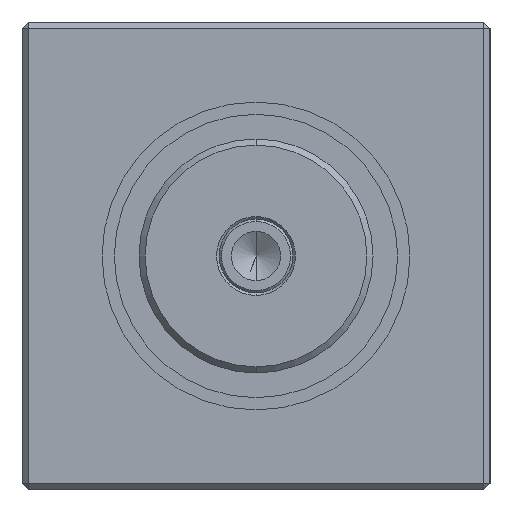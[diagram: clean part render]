
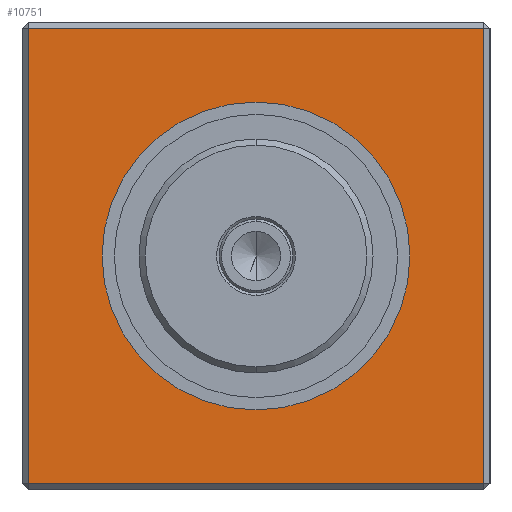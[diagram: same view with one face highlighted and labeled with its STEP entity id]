
A CAD part, left-side view. The second image highlights one B-rep face of the part: STEP entity #10751.
In plain terms, the highlighted planar face has unit normal (-1, 0, 0).
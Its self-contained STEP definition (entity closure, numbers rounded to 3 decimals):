
#8367 = VERTEX_POINT ( 'NONE', #23515 ) ;
#8368 = VERTEX_POINT ( 'NONE', #23516 ) ;
#8369 = VERTEX_POINT ( 'NONE', #23517 ) ;
#8370 = VERTEX_POINT ( 'NONE', #23518 ) ;
#8432 = VERTEX_POINT ( 'NONE', #23580 ) ;
#8433 = VERTEX_POINT ( 'NONE', #23581 ) ;
#8991 = EDGE_CURVE ( 'NONE', #8368, #8369, #26671, .T. ) ;
#8992 = EDGE_CURVE ( 'NONE', #8367, #8368, #26674, .T. ) ;
#8993 = EDGE_CURVE ( 'NONE', #8369, #8370, #26677, .T. ) ;
#8994 = EDGE_CURVE ( 'NONE', #8370, #8367, #26680, .T. ) ;
#8995 = EDGE_CURVE ( 'NONE', #8433, #8432, #17295, .T. ) ;
#9602 = EDGE_LOOP ( 'NONE', ( #9665, #9667 ) ) ;
#9603 = EDGE_LOOP ( 'NONE', ( #9660, #9662, #9661, #9663 ) ) ;
#9660 = ORIENTED_EDGE ( 'NONE', *, *, #8992, .T. ) ;
#9661 = ORIENTED_EDGE ( 'NONE', *, *, #8993, .T. ) ;
#9662 = ORIENTED_EDGE ( 'NONE', *, *, #8991, .T. ) ;
#9663 = ORIENTED_EDGE ( 'NONE', *, *, #8994, .T. ) ;
#9665 = ORIENTED_EDGE ( 'NONE', *, *, #8995, .F. ) ;
#9667 = ORIENTED_EDGE ( 'NONE', *, *, #10670, .F. ) ;
#10670 = EDGE_CURVE ( 'NONE', #8432, #8433, #17387, .T. ) ;
#10751 = ADVANCED_FACE ( 'NONE', ( #30638, #30643 ), #30156, .F. ) ;
#17295 = CIRCLE ( 'NONE', #27256, 12.5 ) ;
#17387 = CIRCLE ( 'NONE', #30446, 12.5 ) ;
#23515 = CARTESIAN_POINT ( 'NONE',  ( 0., 18.5, -18.5 ) ) ;
#23516 = CARTESIAN_POINT ( 'NONE',  ( 0., -18.5, -18.5 ) ) ;
#23517 = CARTESIAN_POINT ( 'NONE',  ( 0., -18.5, 18.5 ) ) ;
#23518 = CARTESIAN_POINT ( 'NONE',  ( 0., 18.5, 18.5 ) ) ;
#23580 = CARTESIAN_POINT ( 'NONE',  ( 0., 12.5, 0. ) ) ;
#23581 = CARTESIAN_POINT ( 'NONE',  ( 0., -12.5, 0. ) ) ;
#26670 = CARTESIAN_POINT ( 'NONE',  ( 0., 0., 0. ) ) ;
#26671 = LINE ( 'NONE', #26672, #27257 ) ;
#26672 = CARTESIAN_POINT ( 'NONE',  ( 0., -18.5, 19. ) ) ;
#26673 = DIRECTION ( 'NONE',  ( 0., 0., 1. ) ) ;
#26674 = LINE ( 'NONE', #26675, #27258 ) ;
#26675 = CARTESIAN_POINT ( 'NONE',  ( 0., -19., -18.5 ) ) ;
#26676 = DIRECTION ( 'NONE',  ( 0., -1., 0. ) ) ;
#26677 = LINE ( 'NONE', #26678, #27259 ) ;
#26678 = CARTESIAN_POINT ( 'NONE',  ( 0., -19., 18.5 ) ) ;
#26679 = DIRECTION ( 'NONE',  ( 0., 1., 0. ) ) ;
#26680 = LINE ( 'NONE', #26681, #27260 ) ;
#26681 = CARTESIAN_POINT ( 'NONE',  ( 0., 18.5, 19. ) ) ;
#26682 = DIRECTION ( 'NONE',  ( 0., 0., -1. ) ) ;
#26683 = DIRECTION ( 'NONE',  ( -1., 0., 0. ) ) ;
#26684 = DIRECTION ( 'NONE',  ( 0., -1., 0. ) ) ;
#27256 = AXIS2_PLACEMENT_3D ( 'NONE', #26670, #26683, #26684 ) ;
#27257 = VECTOR ( 'NONE', #26673, 1000. ) ;
#27258 = VECTOR ( 'NONE', #26676, 1000. ) ;
#27259 = VECTOR ( 'NONE', #26679, 1000. ) ;
#27260 = VECTOR ( 'NONE', #26682, 1000. ) ;
#29900 = CARTESIAN_POINT ( 'NONE',  ( 0., 0., 0. ) ) ;
#29901 = DIRECTION ( 'NONE',  ( -1., 0., 0. ) ) ;
#29902 = DIRECTION ( 'NONE',  ( 0., -1., 0. ) ) ;
#30156 = PLANE ( 'NONE',  #30645 ) ;
#30157 = CARTESIAN_POINT ( 'NONE',  ( 0., -19., 19. ) ) ;
#30158 = DIRECTION ( 'NONE',  ( 1., 0., 0. ) ) ;
#30159 = DIRECTION ( 'NONE',  ( 0., 0., -1. ) ) ;
#30446 = AXIS2_PLACEMENT_3D ( 'NONE', #29900, #29901, #29902 ) ;
#30638 = FACE_OUTER_BOUND ( 'NONE', #9603, .T. ) ;
#30643 = FACE_BOUND ( 'NONE', #9602, .T. ) ;
#30645 = AXIS2_PLACEMENT_3D ( 'NONE', #30157, #30158, #30159 ) ;
